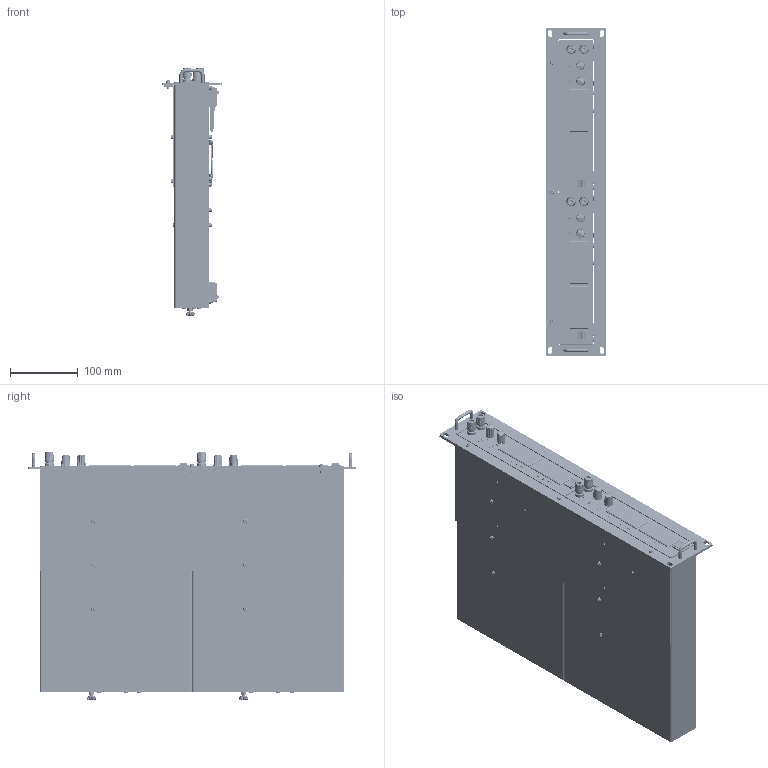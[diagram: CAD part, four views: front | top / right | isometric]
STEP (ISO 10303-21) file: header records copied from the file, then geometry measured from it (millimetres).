
FILE_DESCRIPTION(/* description */ (''),/* implementation_level */ '2;1');
FILE_NAME(/* name */ 'A:\Data\ES300\Option\RA19-2ES300\step files\RA19-2 ES300.stp',/* time_stamp */ '2021-01-04T15:32:51+01:00',/* author */ ('Delta'),/* organization */ (''),/* preprocessor_version */ 'ST-DEVELOPER v17.2',/* originating_system */ 'Autodesk Inventor 2019',/* authorisation */ '');
FILE_SCHEMA (('AUTOMOTIVE_DESIGN { 1 0 10303 214 3 1 1 }'));
Products named in the file (1): Assembly RA19-2 ES300_Shrinkwrap_1
Bounding box: 88.1 x 482.5 x 365.6 mm (x, y, z)
Surface area: 661762.4 mm2 (no closed solid volume)
Topology: 0 solids, 1 shells, 7136 faces, 18206 edges, 11638 vertices
Faces by surface type: plane 4022, cylinder 1157, bspline 954, cone 595, torus 276, sphere 132
Full cylindrical faces by diameter (mm): 1.1 x30, 1.5 x16, 2.156 x4, 2.9 x4, 3 x11, 3.1 x12, 3.4 x8, 3.5 x348, 4 x8, 4.1 x8, 4.5 x4, 4.75 x8, 5 x8, 5.5 x4, 6 x80, 6.7 x4, 6.8 x8, 7.8 x4, 8 x8, 8.8 x6, 9.7 x4, 10.5 x2, 10.7 x4, 12.8 x4, 13.4 x4, 57 x4
Entity records: 244037 total; most frequent: CARTESIAN_POINT 70715, ORIENTED_EDGE 36210, DIRECTION 32194, EDGE_CURVE 18105, VERTEX_POINT 11638, AXIS2_PLACEMENT_3D 11386, LINE 9422, VECTOR 9422
